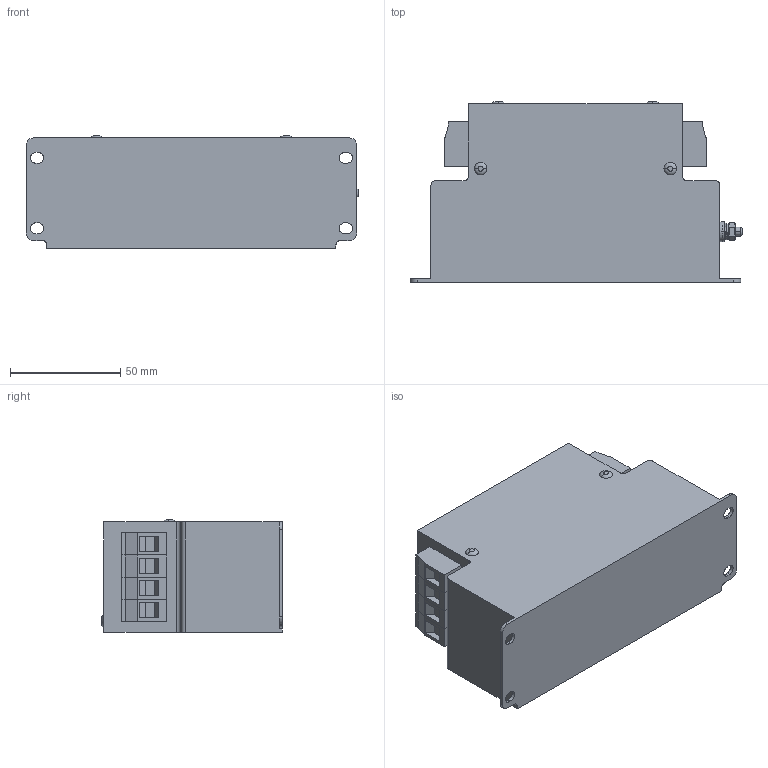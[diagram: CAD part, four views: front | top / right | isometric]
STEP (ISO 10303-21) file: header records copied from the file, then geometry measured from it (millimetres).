
FILE_DESCRIPTION (( 'STEP AP214' ), '1' );
FILE_NAME ('NF-4-30-BFG.STEP', '2021-08-04T08:50:24', ( '' ), ( '' ), 'SwSTEP 2.0', 'SolidWorks 2021', '' );
FILE_SCHEMA (( 'AUTOMOTIVE_DESIGN' ));
Length unit declared in the file: millimetre
Products named in the file (6): 30Mutter M4; 30NF-4-10-BFG; NF-4-30-BFG; 30Federring M4; 300708250_VDFK_4_SELECT; 30Unterlegscheibe M4-Ø9
Assembly tree (13 placements, depth 2):
  NF-4-30-BFG
    30NF-4-10-BFG
    300708250_VDFK_4_SELECT  x8
    30Unterlegscheibe M4-Ø9  x2
    30Federring M4
    30Mutter M4
Bounding box: 150.5 x 82 x 51 mm (x, y, z)
Volume: 492067 mm3; surface area: 54098 mm2
Topology: 13 solids, 13 shells, 463 faces, 1092 edges, 714 vertices
Faces by surface type: plane 279, cylinder 152, torus 12, bspline 10, sphere 8, cone 2
Entity records: 6765 total; most frequent: CARTESIAN_POINT 2224, DIRECTION 833, ORIENTED_EDGE 762, EDGE_CURVE 381, AXIS2_PLACEMENT_3D 307, VERTEX_POINT 240, VECTOR 219, LINE 219
